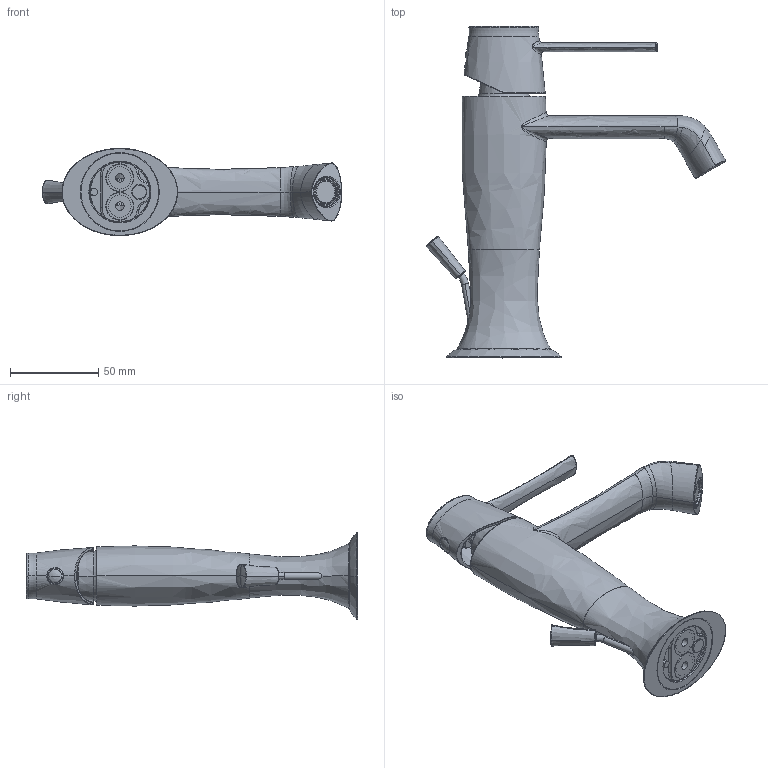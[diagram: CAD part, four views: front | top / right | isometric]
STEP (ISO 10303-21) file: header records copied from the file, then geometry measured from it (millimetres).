
FILE_DESCRIPTION((''),'2;1');
FILE_NAME('58054_SW0001','2026-03-02T16:57:18',('carloff'),(''),'CREO PARAMETRIC BY PTC INC, 2022014','CREO PARAMETRIC BY PTC INC, 2022014','');
FILE_SCHEMA(('CONFIG_CONTROL_DESIGN'));
Products named in the file (1): 58054_SW0001
Bounding box: 169.38 x 187.6 x 49.3 mm (x, y, z)
Volume: 128479.1 mm3; surface area: 82404.1 mm2
Topology: 5 solids, 5 shells, 1595 faces, 4127 edges, 2545 vertices
Faces by surface type: cylinder 453, plane 444, bspline 342, cone 192, torus 120, sphere 38, extrusion 6
Entity records: 80610 total; most frequent: CARTESIAN_POINT 43717, ORIENTED_EDGE 8192, DIRECTION 7244, EDGE_CURVE 4096, AXIS2_PLACEMENT_3D 2885, VERTEX_POINT 2545, EDGE_LOOP 1665, CIRCLE 1638
